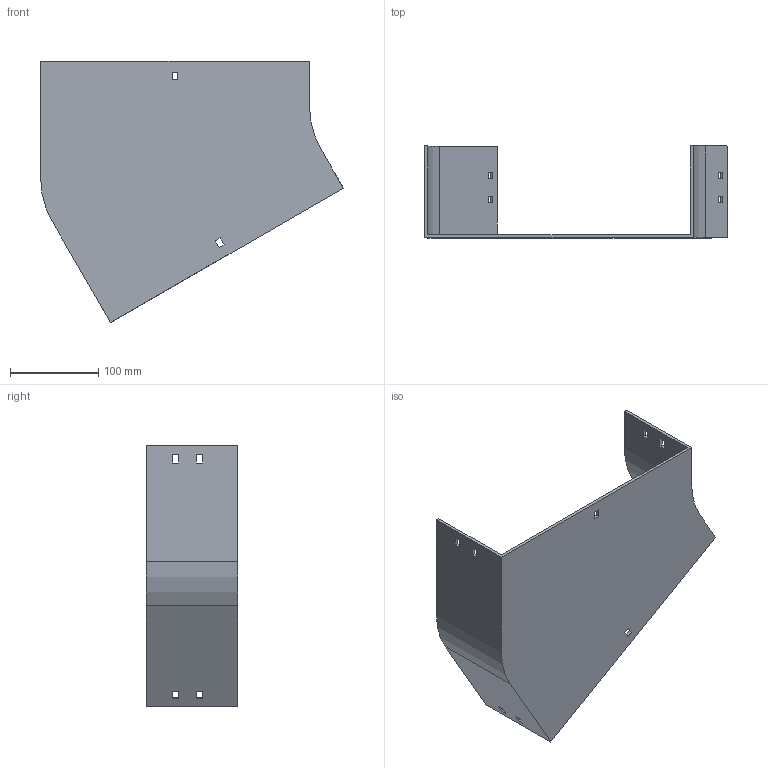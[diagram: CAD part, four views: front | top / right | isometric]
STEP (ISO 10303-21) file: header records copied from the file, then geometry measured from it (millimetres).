
FILE_DESCRIPTION (( 'STEP AP214' ), '1' );
FILE_NAME ('12B1D300.step', '2025-02-21T09:33:34', ( '' ), ( '' ), 'SwSTEP 2.0', 'SolidWorks 2023', '' );
FILE_SCHEMA (( 'AUTOMOTIVE_DESIGN' ));
Length unit declared in the file: millimetre
Products named in the file (1): 12B1D300
Bounding box: 342.4 x 104 x 295.3 mm (x, y, z)
Volume: 412209.7 mm3; surface area: 241889.1 mm2
Topology: 1 solids, 1 shells, 58 faces, 168 edges, 112 vertices
Faces by surface type: plane 54, cylinder 4
Entity records: 1943 total; most frequent: CARTESIAN_POINT 339, ORIENTED_EDGE 336, DIRECTION 294, EDGE_CURVE 168, LINE 160, VECTOR 160, VERTEX_POINT 112, EDGE_LOOP 78
